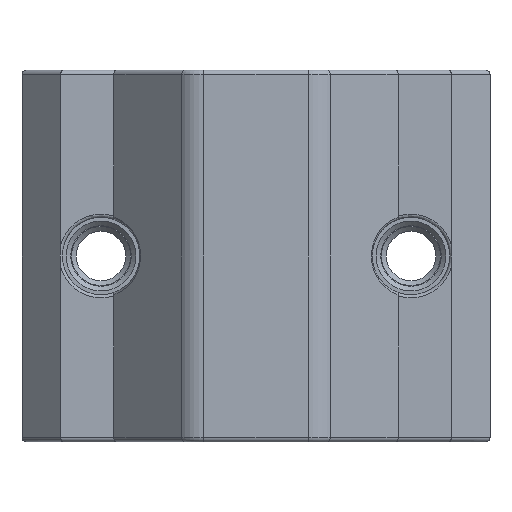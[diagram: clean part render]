
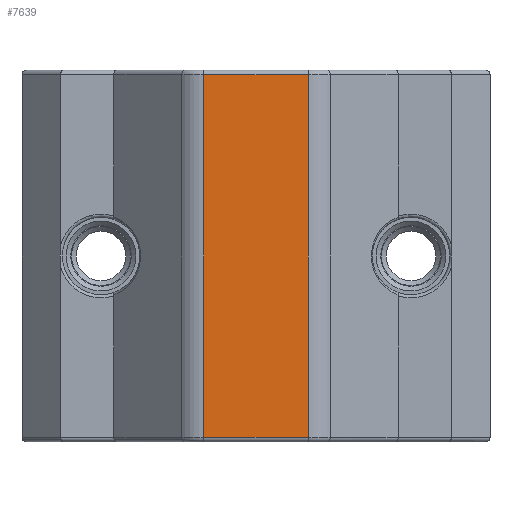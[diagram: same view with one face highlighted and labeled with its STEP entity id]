
A CAD part, front view. The second image highlights one B-rep face of the part: STEP entity #7639.
In plain terms, the highlighted planar face has unit normal (0, -1, 0).
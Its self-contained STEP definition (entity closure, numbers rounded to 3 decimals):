
#872=LINE('',#13662,#1608);
#875=LINE('',#13682,#1611);
#883=LINE('',#13722,#1619);
#884=LINE('',#13724,#1620);
#1608=VECTOR('',#9794,10.);
#1611=VECTOR('',#9823,10.);
#1619=VECTOR('',#9883,10.);
#1620=VECTOR('',#9886,10.);
#1837=PLANE('',#8158);
#2370=FACE_OUTER_BOUND('',#2833,.T.);
#2833=EDGE_LOOP('',(#7095,#7096,#7097,#7098));
#3807=VERTEX_POINT('',#13656);
#3808=VERTEX_POINT('',#13660);
#3811=VERTEX_POINT('',#13676);
#3812=VERTEX_POINT('',#13680);
#4890=EDGE_CURVE('',#3807,#3808,#872,.T.);
#4900=EDGE_CURVE('',#3811,#3812,#875,.T.);
#4917=EDGE_CURVE('',#3808,#3811,#883,.T.);
#4918=EDGE_CURVE('',#3807,#3812,#884,.T.);
#7095=ORIENTED_EDGE('',*,*,#4900,.F.);
#7096=ORIENTED_EDGE('',*,*,#4917,.F.);
#7097=ORIENTED_EDGE('',*,*,#4890,.F.);
#7098=ORIENTED_EDGE('',*,*,#4918,.T.);
#7639=ADVANCED_FACE('',(#2370),#1837,.F.);
#8158=AXIS2_PLACEMENT_3D('',#13723,#9884,#9885);
#9794=DIRECTION('',(-1.,0.,0.));
#9823=DIRECTION('',(1.,0.,0.));
#9883=DIRECTION('',(0.,0.,1.));
#9884=DIRECTION('center_axis',(0.,1.,0.));
#9885=DIRECTION('ref_axis',(-1.,0.,0.));
#9886=DIRECTION('',(0.,0.,1.));
#13656=CARTESIAN_POINT('',(3.381,-21.863,-11.7));
#13660=CARTESIAN_POINT('',(-3.381,-21.863,-11.7));
#13662=CARTESIAN_POINT('',(0.649,-21.863,-11.7));
#13676=CARTESIAN_POINT('',(-3.381,-21.863,11.7));
#13680=CARTESIAN_POINT('',(3.381,-21.863,11.7));
#13682=CARTESIAN_POINT('',(1.599,-21.863,11.7));
#13722=CARTESIAN_POINT('',(-3.381,-21.863,-12.));
#13723=CARTESIAN_POINT('Origin',(3.381,-21.863,-12.));
#13724=CARTESIAN_POINT('',(3.381,-21.863,-12.));
